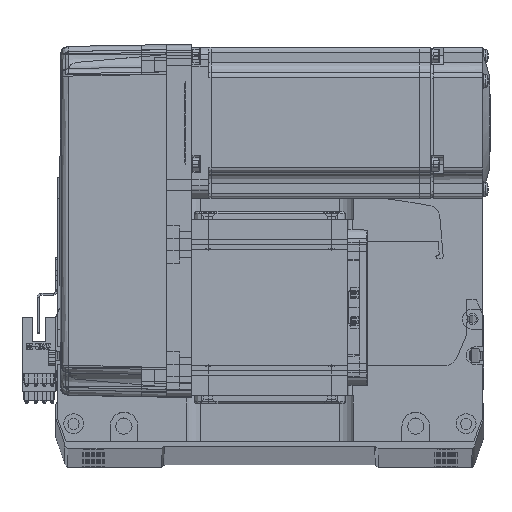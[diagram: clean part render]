
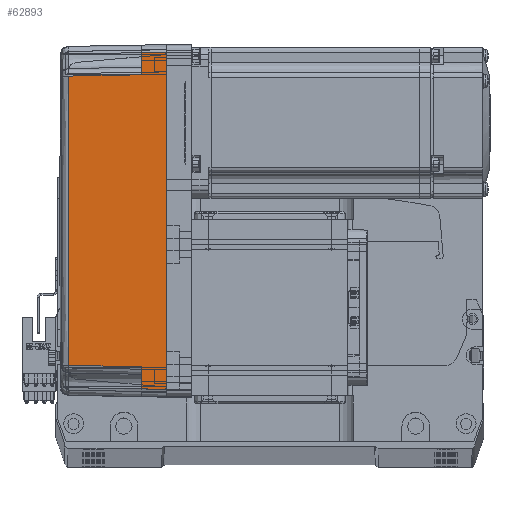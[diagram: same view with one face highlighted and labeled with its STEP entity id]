
A CAD part, top view. The second image highlights one B-rep face of the part: STEP entity #62893.
In plain terms, the highlighted planar face has unit normal (-0.018, 0, 1) as drawn and (0, 1, 0.017) by its records, which use the part's own axes.
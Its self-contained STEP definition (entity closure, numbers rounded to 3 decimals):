
#2138 = VERTEX_POINT ( 'NONE', #13094 ) ;
#5746 = DIRECTION ( 'NONE',  ( 0.017, 0.017, -1. ) ) ;
#6544 = ORIENTED_EDGE ( 'NONE', *, *, #68592, .F. ) ;
#6804 = EDGE_LOOP ( 'NONE', ( #46203, #26080, #30560, #57598, #53660, #75121, #6544, #20335 ) ) ;
#7008 = CARTESIAN_POINT ( 'NONE',  ( 0., 36., 0. ) ) ;
#8921 = VERTEX_POINT ( 'NONE', #35421 ) ;
#11030 = CARTESIAN_POINT ( 'NONE',  ( -67., 36., 0. ) ) ;
#11960 = EDGE_CURVE ( 'NONE', #30330, #33058, #47485, .T. ) ;
#13094 = CARTESIAN_POINT ( 'NONE',  ( -67., 36., 0. ) ) ;
#13408 = CARTESIAN_POINT ( 'NONE',  ( 70., 35.825, 10. ) ) ;
#16034 = VECTOR ( 'NONE', #30497, 1000. ) ;
#16957 = CARTESIAN_POINT ( 'NONE',  ( 66.826, 35.825, 10. ) ) ;
#18156 = VECTOR ( 'NONE', #37529, 1000. ) ;
#20192 = VERTEX_POINT ( 'NONE', #16957 ) ;
#20335 = ORIENTED_EDGE ( 'NONE', *, *, #52559, .F. ) ;
#20481 = VECTOR ( 'NONE', #5746, 1000. ) ;
#21497 = CARTESIAN_POINT ( 'NONE',  ( -58., 35.825, 10. ) ) ;
#22007 = CARTESIAN_POINT ( 'NONE',  ( 70., 35.825, 10. ) ) ;
#24570 = EDGE_CURVE ( 'NONE', #31167, #8921, #33595, .T. ) ;
#26080 = ORIENTED_EDGE ( 'NONE', *, *, #24570, .T. ) ;
#29804 = DIRECTION ( 'NONE',  ( 0., -0.017, 1. ) ) ;
#30031 = CARTESIAN_POINT ( 'NONE',  ( 70., 36., 0. ) ) ;
#30127 = VERTEX_POINT ( 'NONE', #71511 ) ;
#30330 = VERTEX_POINT ( 'NONE', #71681 ) ;
#30497 = DIRECTION ( 'NONE',  ( 1., 0., 0. ) ) ;
#30560 = ORIENTED_EDGE ( 'NONE', *, *, #74048, .T. ) ;
#31167 = VERTEX_POINT ( 'NONE', #45743 ) ;
#31917 = LINE ( 'NONE', #11030, #51033 ) ;
#33058 = VERTEX_POINT ( 'NONE', #41666 ) ;
#33595 = LINE ( 'NONE', #13408, #18156 ) ;
#33655 = DIRECTION ( 'NONE',  ( 0.017, -0.017, 1. ) ) ;
#34183 = LINE ( 'NONE', #7008, #16034 ) ;
#34743 = CARTESIAN_POINT ( 'NONE',  ( 57.495, 35.32, 38.985 ) ) ;
#34982 = FACE_OUTER_BOUND ( 'NONE', #6804, .T. ) ;
#35421 = CARTESIAN_POINT ( 'NONE',  ( -58., 35.825, 10. ) ) ;
#36088 = PLANE ( 'NONE',  #70745 ) ;
#36336 = CARTESIAN_POINT ( 'NONE',  ( 57.495, 35.32, 38.985 ) ) ;
#37529 = DIRECTION ( 'NONE',  ( 1., 0., 0. ) ) ;
#38428 = VECTOR ( 'NONE', #74741, 1000. ) ;
#39775 = DIRECTION ( 'NONE',  ( 0.017, -0.017, 1. ) ) ;
#40975 = VECTOR ( 'NONE', #62548, 1000. ) ;
#41666 = CARTESIAN_POINT ( 'NONE',  ( 57.495, 35.32, 38.985 ) ) ;
#44533 = LINE ( 'NONE', #21497, #65605 ) ;
#45418 = CARTESIAN_POINT ( 'NONE',  ( 67.001, 36.001, -0.052 ) ) ;
#45743 = CARTESIAN_POINT ( 'NONE',  ( -66.826, 35.825, 10. ) ) ;
#46203 = ORIENTED_EDGE ( 'NONE', *, *, #73478, .T. ) ;
#47485 = B_SPLINE_CURVE_WITH_KNOTS ( 'NONE', 3,
 ( #53906, #65202, #48278, #36336 ),
 .UNSPECIFIED., .F., .F.,
 ( 4, 4 ),
 ( 0., 1. ),
 .UNSPECIFIED. ) ;
#48278 = CARTESIAN_POINT ( 'NONE',  ( 19.165, 35.316, 39.181 ) ) ;
#51033 = VECTOR ( 'NONE', #33655, 1000. ) ;
#51693 = VERTEX_POINT ( 'NONE', #56713 ) ;
#52559 = EDGE_CURVE ( 'NONE', #2138, #30127, #34183, .T. ) ;
#53225 = EDGE_CURVE ( 'NONE', #33058, #51693, #64210, .T. ) ;
#53660 = ORIENTED_EDGE ( 'NONE', *, *, #53225, .T. ) ;
#53906 = CARTESIAN_POINT ( 'NONE',  ( -57.495, 35.32, 38.985 ) ) ;
#54678 = LINE ( 'NONE', #45418, #40975 ) ;
#54826 = LINE ( 'NONE', #22007, #38428 ) ;
#56713 = CARTESIAN_POINT ( 'NONE',  ( 58., 35.825, 10. ) ) ;
#57598 = ORIENTED_EDGE ( 'NONE', *, *, #11960, .T. ) ;
#62548 = DIRECTION ( 'NONE',  ( -0.017, -0.017, 1. ) ) ;
#62893 = ADVANCED_FACE ( 'NONE', ( #34982 ), #36088, .T. ) ;
#64210 = LINE ( 'NONE', #34743, #20481 ) ;
#65202 = CARTESIAN_POINT ( 'NONE',  ( -19.165, 35.316, 39.181 ) ) ;
#65605 = VECTOR ( 'NONE', #39775, 1000. ) ;
#67503 = EDGE_CURVE ( 'NONE', #51693, #20192, #54826, .T. ) ;
#68592 = EDGE_CURVE ( 'NONE', #30127, #20192, #54678, .T. ) ;
#70057 = DIRECTION ( 'NONE',  ( 0., 1., 0.017 ) ) ;
#70745 = AXIS2_PLACEMENT_3D ( 'NONE', #30031, #70057, #29804 ) ;
#71511 = CARTESIAN_POINT ( 'NONE',  ( 67., 36., 0. ) ) ;
#71681 = CARTESIAN_POINT ( 'NONE',  ( -57.495, 35.32, 38.985 ) ) ;
#73478 = EDGE_CURVE ( 'NONE', #2138, #31167, #31917, .T. ) ;
#74048 = EDGE_CURVE ( 'NONE', #8921, #30330, #44533, .T. ) ;
#74741 = DIRECTION ( 'NONE',  ( 1., 0., 0. ) ) ;
#75121 = ORIENTED_EDGE ( 'NONE', *, *, #67503, .T. ) ;
